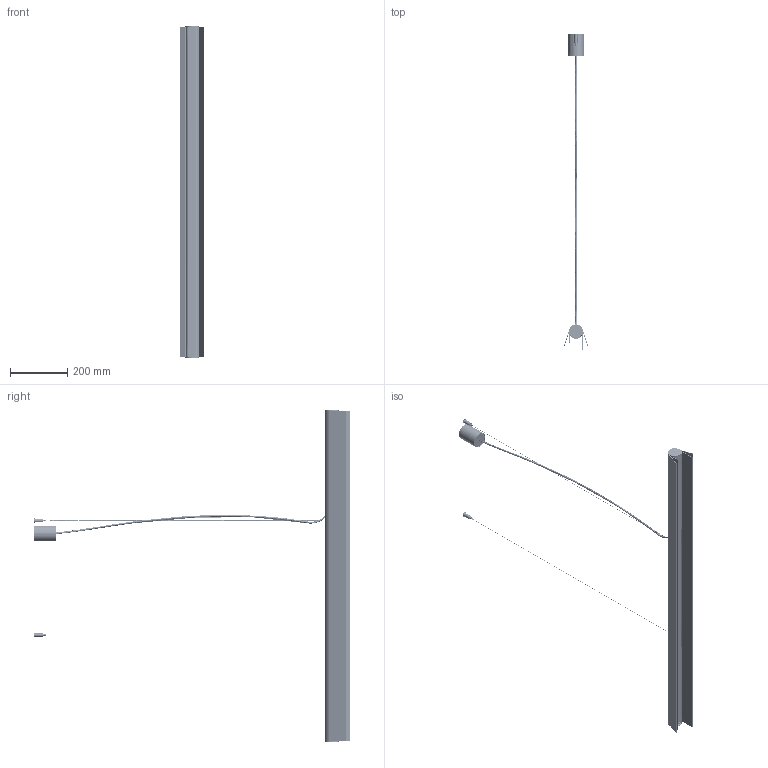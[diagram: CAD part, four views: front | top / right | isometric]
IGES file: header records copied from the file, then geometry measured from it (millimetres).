
Start section: SolidWorks IGES file using analytic representation for surfaces
Global section: file name: D:\....SOLID WORKS\...BORYS\2018 PROFIL ALU LED\PROFIL ALU_A_\MODEL KONCOWY\ALU_A_model koncowy.IGS; native system: SolidWorks 2017; preprocessor: SolidWorks 2017; author: lukasz.jaworski; date: 190703.150310; units: millimetre
Bounding box: 84.37 x 1104.64 x 1161 mm (x, y, z)
Surface area: 1622185.8 mm2 (no closed solid volume)
Topology: 0 solids, 0 shells, 9088 faces, 67413 edges, 66265 vertices
Faces by surface type: bspline 5705, revolution 3383
